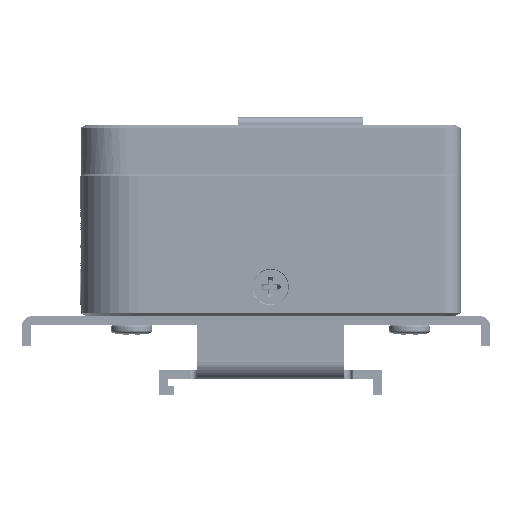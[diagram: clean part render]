
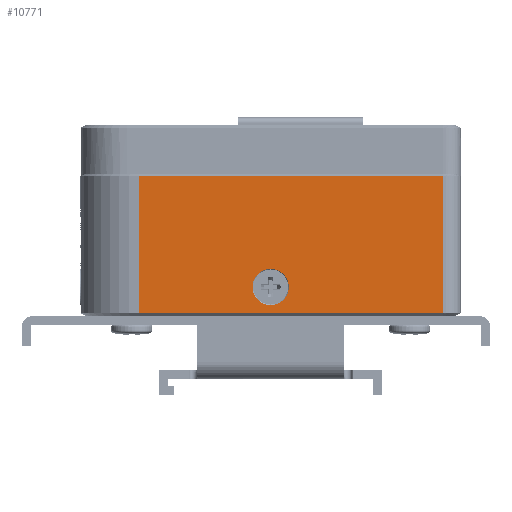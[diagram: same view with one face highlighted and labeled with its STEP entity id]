
A CAD part, left-side view. The second image highlights one B-rep face of the part: STEP entity #10771.
In plain terms, the highlighted planar face has unit normal (-1, 0, 0).
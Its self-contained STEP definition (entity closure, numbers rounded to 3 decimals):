
#724=DIRECTION('',(0.,-1.,0.));
#725=VECTOR('',#724,52.);
#726=CARTESIAN_POINT('',(-60.,21.5,-8.3));
#727=LINE('',#726,#725);
#731=DIRECTION('',(0.,1.,0.));
#732=VECTOR('',#731,52.);
#733=CARTESIAN_POINT('',(-60.,-30.5,
-31.7));
#734=LINE('',#733,#732);
#738=CARTESIAN_POINT('',(-60.,-1.,-27.2));
#739=DIRECTION('',(-1.,0.,0.));
#740=DIRECTION('',(0.,-1.,0.));
#741=AXIS2_PLACEMENT_3D('',#738,#739,#740);
#746=CARTESIAN_POINT('',(-60.,-1.,-27.2));
#747=DIRECTION('',(-1.,0.,0.));
#748=DIRECTION('',(0.,0.,1.));
#749=AXIS2_PLACEMENT_3D('',#746,#747,#748);
#754=CARTESIAN_POINT('',(-60.,-1.,-27.2));
#755=DIRECTION('',(-1.,0.,0.));
#756=DIRECTION('',(0.,1.,0.));
#757=AXIS2_PLACEMENT_3D('',#754,#755,#756);
#762=CARTESIAN_POINT('',(-60.,-1.,-27.2));
#763=DIRECTION('',(-1.,0.,0.));
#764=DIRECTION('',(0.,0.,-1.));
#765=AXIS2_PLACEMENT_3D('',#762,#763,#764);
#777=DIRECTION('',(0.,0.,1.));
#778=VECTOR('',#777,23.4);
#779=CARTESIAN_POINT('',(-60.,-30.5,
-31.7));
#780=LINE('',#779,#778);
#1152=DIRECTION('',(0.,0.,-1.));
#1153=VECTOR('',#1152,23.4);
#1154=CARTESIAN_POINT('',(-60.,21.5,
-8.3));
#1155=LINE('',#1154,#1153);
#9088=CARTESIAN_POINT('',(-60.,-30.5,-8.3));
#9089=VERTEX_POINT('',#9088);
#9160=CARTESIAN_POINT('',(-60.,21.5,
-8.3));
#9161=VERTEX_POINT('',#9160);
#9162=CARTESIAN_POINT('',(-60.,-30.5,
-31.7));
#9163=VERTEX_POINT('',#9162);
#9164=CARTESIAN_POINT('',(-60.,21.5,
-31.7));
#9165=VERTEX_POINT('',#9164);
#9166=CARTESIAN_POINT('',(-60.,-4.1,-27.199));
#9167=CARTESIAN_POINT('',(-60.,-1.,-24.1));
#9168=VERTEX_POINT('',#9166);
#9169=VERTEX_POINT('',#9167);
#9170=CARTESIAN_POINT('',(-60.,2.1,-27.201));
#9171=VERTEX_POINT('',#9170);
#9172=CARTESIAN_POINT('',(-60.,-1.,-30.3));
#9173=VERTEX_POINT('',#9172);
#10747=CARTESIAN_POINT('',(-60.,31.5,-32.2));
#10748=DIRECTION('',(-1.,0.,0.));
#10749=DIRECTION('',(0.,0.,-1.));
#10750=AXIS2_PLACEMENT_3D('',#10747,#10748,#10749);
#10751=PLANE('',#10750);
#10752=ORIENTED_EDGE('',*,*,#10740,.T.);
#10754=ORIENTED_EDGE('',*,*,#10753,.F.);
#10756=ORIENTED_EDGE('',*,*,#10755,.T.);
#10758=ORIENTED_EDGE('',*,*,#10757,.F.);
#10759=EDGE_LOOP('',(#10752,#10754,#10756,#10758));
#10760=FACE_OUTER_BOUND('',#10759,.F.);
#10762=ORIENTED_EDGE('',*,*,#10761,.T.);
#10764=ORIENTED_EDGE('',*,*,#10763,.T.);
#10766=ORIENTED_EDGE('',*,*,#10765,.T.);
#10768=ORIENTED_EDGE('',*,*,#10767,.T.);
#10769=EDGE_LOOP('',(#10762,#10764,#10766,#10768));
#10770=FACE_BOUND('',#10769,.F.);
#742=CIRCLE('',#741,3.1);
#750=CIRCLE('',#749,3.1);
#758=CIRCLE('',#757,3.1);
#766=CIRCLE('',#765,3.1);
#10740=EDGE_CURVE('',#9161,#9089,#727,.T.);
#10753=EDGE_CURVE('',#9163,#9089,#780,.T.);
#10755=EDGE_CURVE('',#9163,#9165,#734,.T.);
#10757=EDGE_CURVE('',#9161,#9165,#1155,.T.);
#10761=EDGE_CURVE('',#9168,#9169,#742,.T.);
#10763=EDGE_CURVE('',#9169,#9171,#750,.T.);
#10765=EDGE_CURVE('',#9171,#9173,#758,.T.);
#10767=EDGE_CURVE('',#9173,#9168,#766,.T.);
#10771=ADVANCED_FACE('',(#10760,#10770),#10751,.T.);
